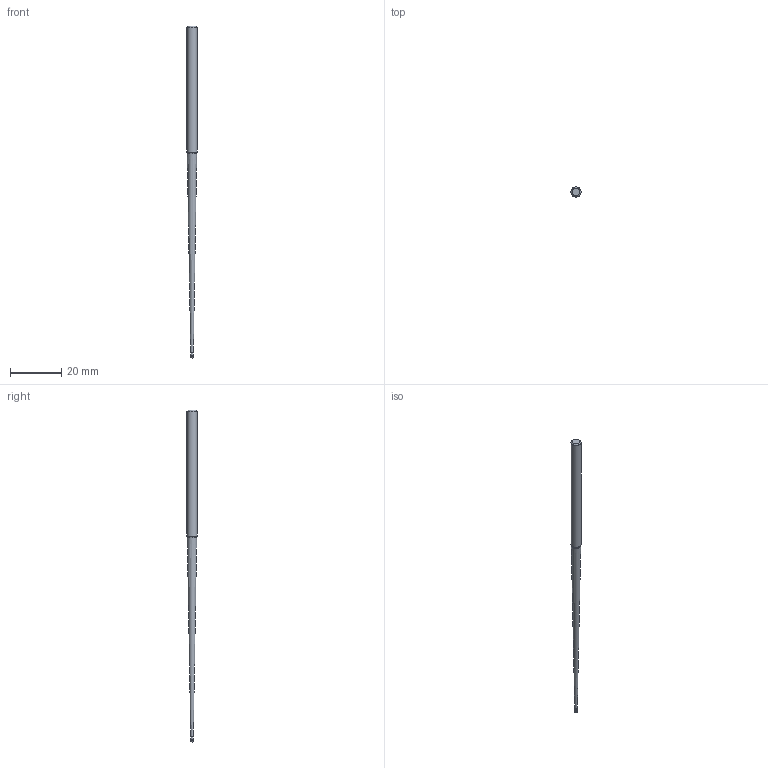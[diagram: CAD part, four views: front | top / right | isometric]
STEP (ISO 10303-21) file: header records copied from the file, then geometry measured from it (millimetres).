
FILE_DESCRIPTION((''),'2;1');
FILE_NAME('C:\Users\nsx150\AppData\Local\Temp\Mastercam 2021\SNAKH10GOD\TEMP.step','2021-10-21T13:32:14',(''),(''),'STEP Write','Mastercam 2021 ... CNC Software, Inc.','');
FILE_SCHEMA(('AUTOMOTIVE_DESIGN'));
Length unit declared in the file: millimetre
Products named in the file (1): None
Bounding box: 4 x 4 x 130 mm (x, y, z)
Volume: 1005 mm3; surface area: 1221.1 mm2
Topology: 2 solids, 2 shells, 10 faces, 16 edges, 9 vertices
Faces by surface type: plane 3, cylinder 3, cone 3, sphere 1
Full cylindrical faces by diameter (mm): 0.985 x1, 1 x1, 4 x1
Entity records: 232 total; most frequent: DIRECTION 40, CARTESIAN_POINT 28, AXIS2_PLACEMENT_3D 20, ORIENTED_EDGE 16, EDGE_LOOP 16, STYLED_ITEM 13, ADVANCED_FACE 10, FACE_BOUND 9
